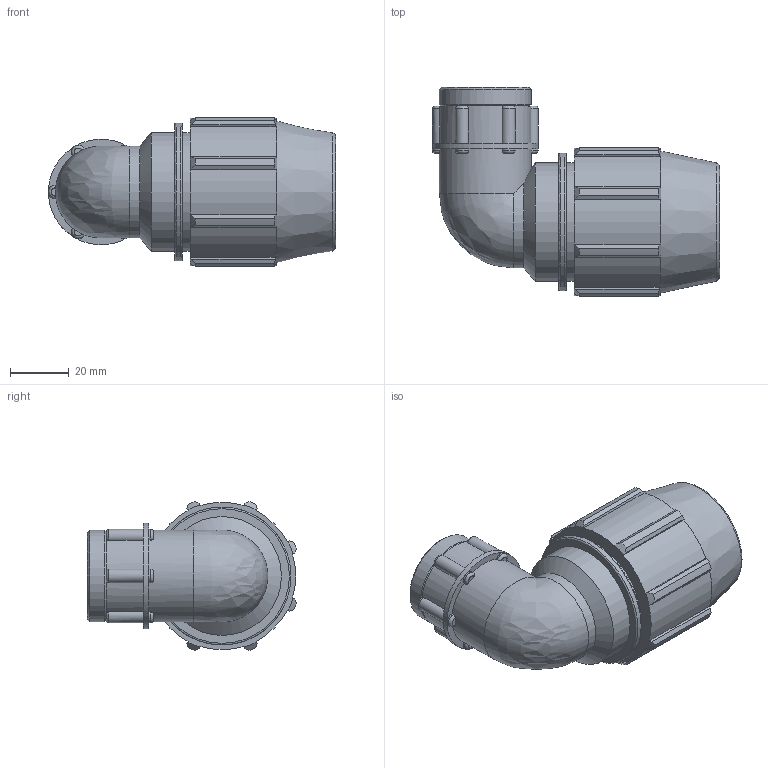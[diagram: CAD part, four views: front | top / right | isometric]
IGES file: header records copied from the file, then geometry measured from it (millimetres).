
Global section: file name: 0715M0007007.ipt; native system: Autodesk Inventor 2019; preprocessor: unknown; author: KIM; date: 20210826.124748; units: inch
Bounding box: 98.04 x 71.43 x 50.91 mm (x, y, z)
Volume: 101260.3 mm3; surface area: 29189.6 mm2
Topology: 1 solids, 1 shells, 139 faces, 384 edges, 251 vertices
Faces by surface type: plane 60, cylinder 41, revolution 22, cone 14, bspline 2
Full cylindrical faces by diameter (mm): 31.352 x2, 36.055 x1, 40.576 x2, 47.069 x1
